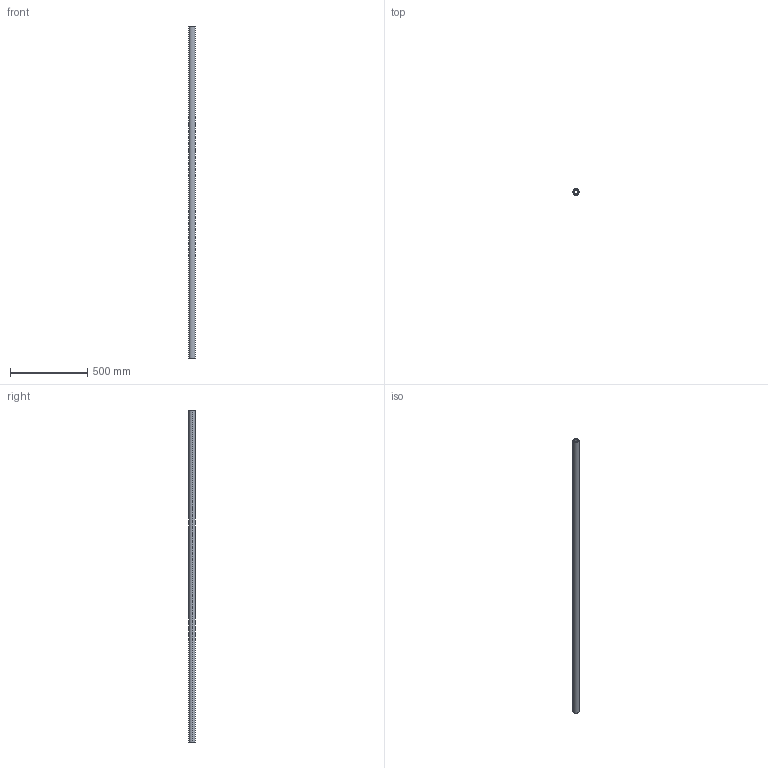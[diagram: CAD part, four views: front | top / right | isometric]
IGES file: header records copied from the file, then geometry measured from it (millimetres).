
Start section: SolidWorks IGES file using analytic representation for surfaces
Global section: file name: C:\Users\IanO\Desktop\L1771_v2\L1771.40_v2\L1771.40_v2_20230705_IGES\L1771.40-2150.igs; native system: SolidWorks 2019; preprocessor: SolidWorks 2019; author: IanO; date: 230705.161049; units: millimetre
Bounding box: 40 x 40 x 2150 mm (x, y, z)
Surface area: 460582.6 mm2 (no closed solid volume)
Topology: 0 solids, 0 shells, 6 faces, 272 edges, 272 vertices
Faces by surface type: revolution 4, bspline 2
